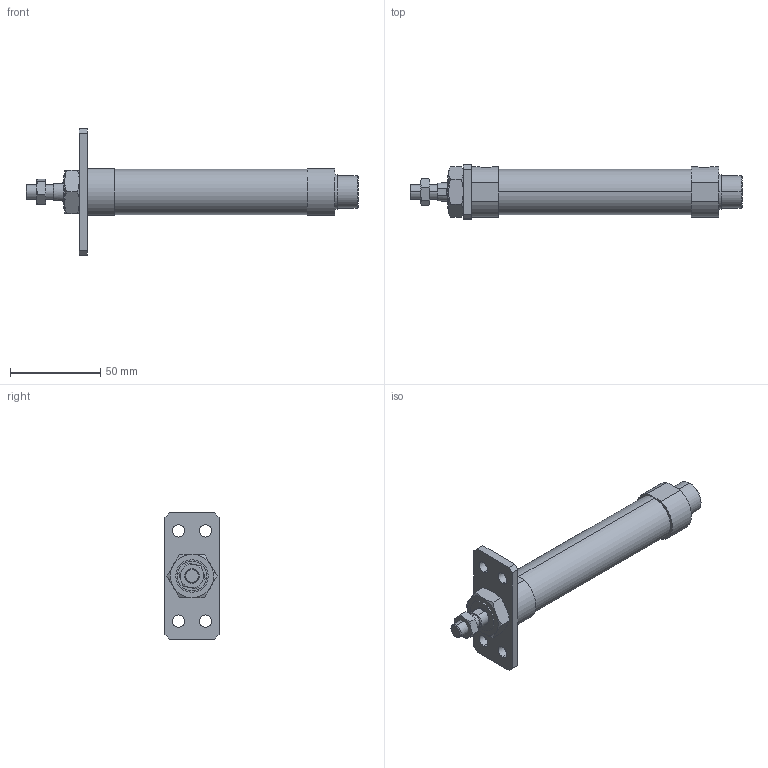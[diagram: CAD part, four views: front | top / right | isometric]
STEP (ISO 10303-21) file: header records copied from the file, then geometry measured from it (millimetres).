
FILE_DESCRIPTION (( 'STEP AP203' ), '1' );
FILE_NAME ('J#2-20-75-A.STEP', '2016-03-08T06:58:51', ( '' ), ( '' ), 'SwSTEP 2.0', 'SolidWorks 2014', '' );
FILE_SCHEMA (( 'CONFIG_CONTROL_DESIGN' ));
Length unit declared in the file: millimetre
Products named in the file (5): J#2-20-75-A; J#2-20-A; J#2-20-75
Assembly tree (4 placements, depth 2):
  J#2-20-75-A
    J#2-20-75
    (unnamed)
    (unnamed)
    J#2-20-A
Bounding box: 184 x 30 x 70 mm (x, y, z)
Volume: 87216.4 mm3; surface area: 22176.5 mm2
Topology: 4 solids, 4 shells, 112 faces, 252 edges, 158 vertices
Faces by surface type: plane 46, cylinder 36, torus 24, cone 6
Entity records: 4013 total; most frequent: CARTESIAN_POINT 985, DIRECTION 536, ORIENTED_EDGE 504, EDGE_CURVE 252, AXIS2_PLACEMENT_3D 221, VERTEX_POINT 158, EDGE_LOOP 136, ADVANCED_FACE 112
